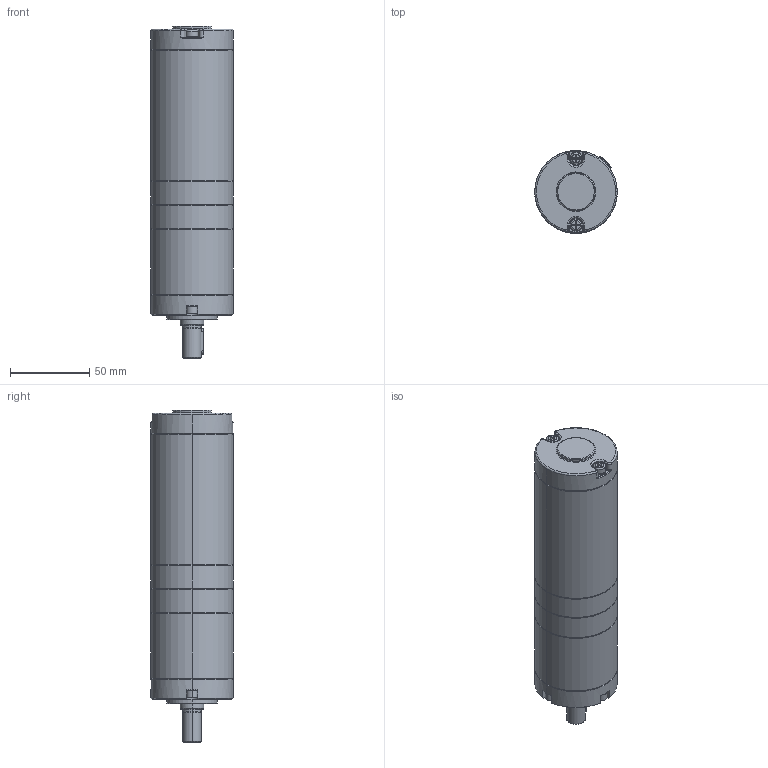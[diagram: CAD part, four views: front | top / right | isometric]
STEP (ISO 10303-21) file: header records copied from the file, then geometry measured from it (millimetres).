
FILE_DESCRIPTION (( 'STEP AP203' ), '1' );
FILE_NAME ('52ZPN有刷三级减速.STEP', '2021-07-17T08:16:43', ( '' ), ( '' ), 'SwSTEP 2.0', 'SolidWorks 2021', '' );
FILE_SCHEMA (( 'CONFIG_CONTROL_DESIGN' ));
Length unit declared in the file: millimetre
Products named in the file (1): 52ZPN有刷三级减速
Bounding box: 52 x 52 x 209.5 mm (x, y, z)
Volume: 387408.3 mm3; surface area: 37472.9 mm2
Topology: 1 solids, 1 shells, 312 faces, 732 edges, 437 vertices
Faces by surface type: plane 112, cylinder 106, cone 53, torus 30, bspline 8, sphere 3
Entity records: 9582 total; most frequent: CARTESIAN_POINT 2336, DIRECTION 1585, ORIENTED_EDGE 1432, EDGE_CURVE 716, AXIS2_PLACEMENT_3D 605, VERTEX_POINT 436, LINE 375, VECTOR 375
